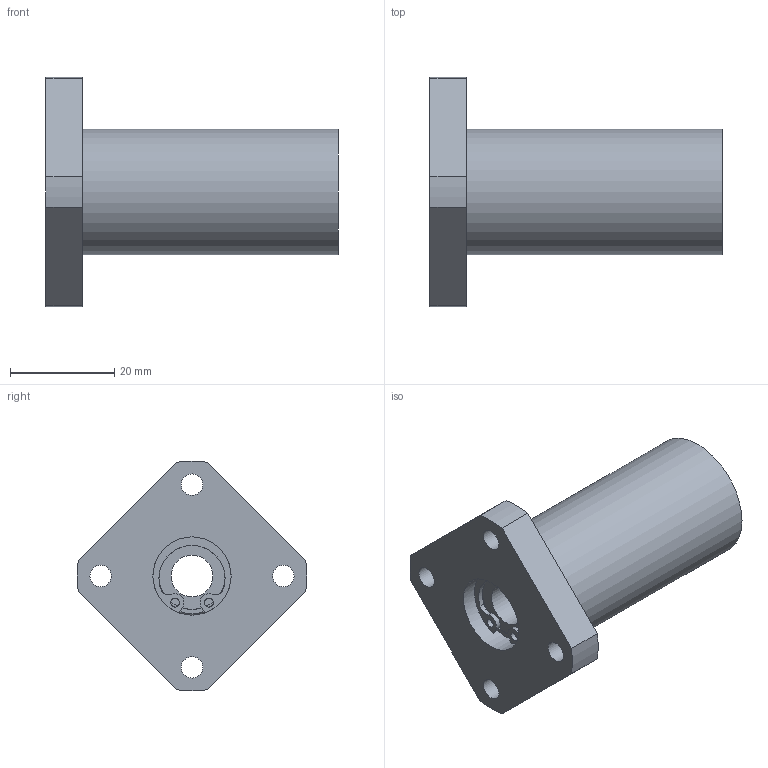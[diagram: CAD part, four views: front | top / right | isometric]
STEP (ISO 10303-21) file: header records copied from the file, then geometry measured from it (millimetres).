
FILE_DESCRIPTION((''),'2;1');
FILE_NAME('D:\製品 (図面)\カタログ用3D\リニアベアリング関連(改)\STEP形式\LFWK\LFWK8.stp','2010-01-22T15:51:07',('Tsuchiya'),(''),'Autodesk Inventor 10','Autodesk Inventor 10','');
FILE_SCHEMA(('AUTOMOTIVE_DESIGN { 1 0 10303 214 1 1 1 1 }'));
Length unit declared in the file: millimetre
Products named in the file (1): LFWK8
Bounding box: 56 x 43.96 x 43.96 mm (x, y, z)
Volume: 26315.3 mm3; surface area: 9780.4 mm2
Topology: 1 solids, 6 shells, 86 faces, 212 edges, 133 vertices
Faces by surface type: bspline 31, cylinder 28, plane 25, torus 2
Full cylindrical faces by diameter (mm): 1.7 x2, 4.134 x4, 8 x1, 12.8 x2, 14.3 x2, 15 x7, 24 x1
Entity records: 2574 total; most frequent: CARTESIAN_POINT 698, DIRECTION 394, ORIENTED_EDGE 330, AXIS2_PLACEMENT_3D 173, EDGE_CURVE 165, EDGE_LOOP 144, VERTEX_POINT 117, CIRCLE 117
